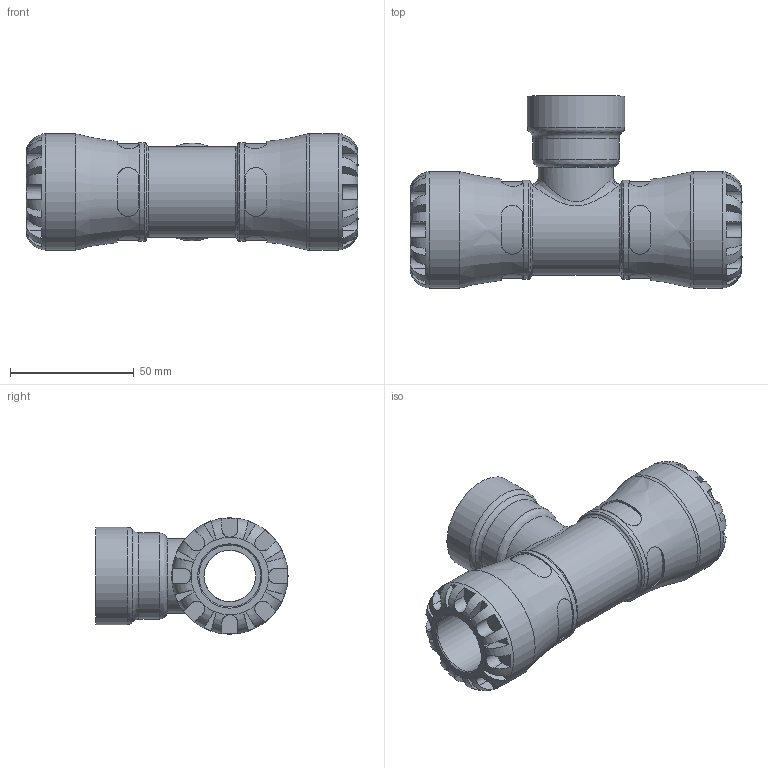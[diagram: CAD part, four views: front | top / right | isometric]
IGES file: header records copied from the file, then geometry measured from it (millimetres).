
Global section: file name: 101400025010_191400025010.ipt; native system: Autodesk Inventor 2015; preprocessor: unknown; author: KIM; date: 20170130.090640; units: millimetre
Bounding box: 134 x 77.5 x 47 mm (x, y, z)
Volume: 128294.4 mm3; surface area: 40354.4 mm2
Topology: 1 solids, 1 shells, 204 faces, 537 edges, 344 vertices
Faces by surface type: plane 120, revolution 51, cylinder 32, bspline 1
Full cylindrical faces by diameter (mm): 30.291 x1, 34.835 x1, 39.378 x1, 39.95 x2, 47 x2
